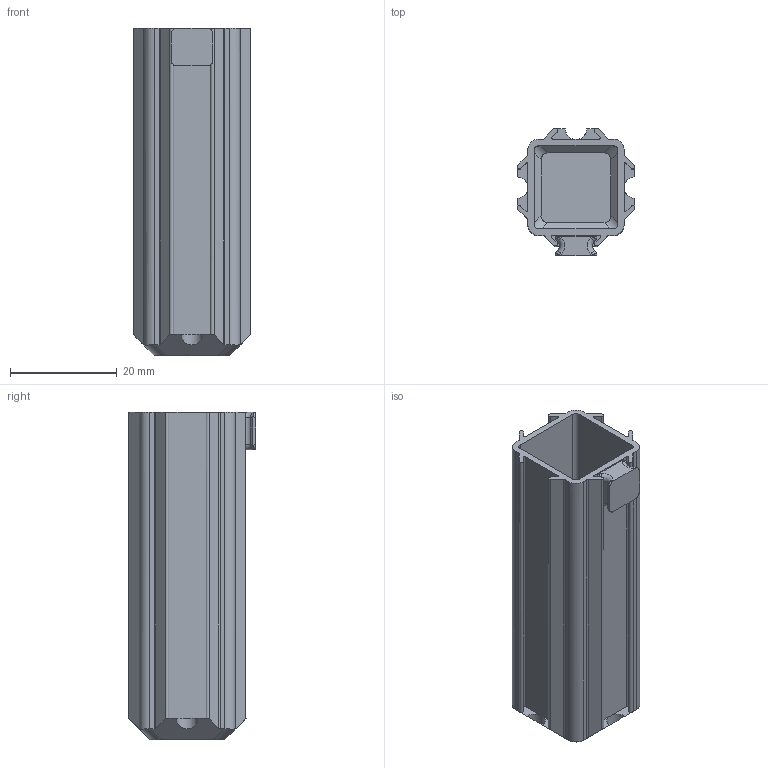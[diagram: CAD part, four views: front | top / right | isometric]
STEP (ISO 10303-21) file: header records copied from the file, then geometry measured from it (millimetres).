
FILE_DESCRIPTION(/* description */ (''),/* implementation_level */ '2;1');
FILE_NAME(/* name */ 'BOX_x01_y01_z060_tx0_ty0.stp',/* time_stamp */ '2024-02-16T08:37:25+01:00',/* author */ ('ott'),/* organization */ (''),/* preprocessor_version */ 'ST-DEVELOPER v19.2',/* originating_system */ 'Autodesk Inventor 2023',/* authorisation */ '');
FILE_SCHEMA (('AUTOMOTIVE_DESIGN { 1 0 10303 214 3 1 1 }'));
Length unit declared in the file: millimetre
Products named in the file (1): BOX_x01_y01_z060_tx0_ty0
Bounding box: 22 x 23.8 x 61.2 mm (x, y, z)
Volume: 6171.1 mm3; surface area: 10557.9 mm2
Topology: 2 solids, 2 shells, 123 faces, 336 edges, 218 vertices
Faces by surface type: plane 63, cylinder 56, torus 4
Entity records: 4164 total; most frequent: CARTESIAN_POINT 774, DIRECTION 700, ORIENTED_EDGE 672, EDGE_CURVE 336, AXIS2_PLACEMENT_3D 248, VERTEX_POINT 218, LINE 204, VECTOR 204
